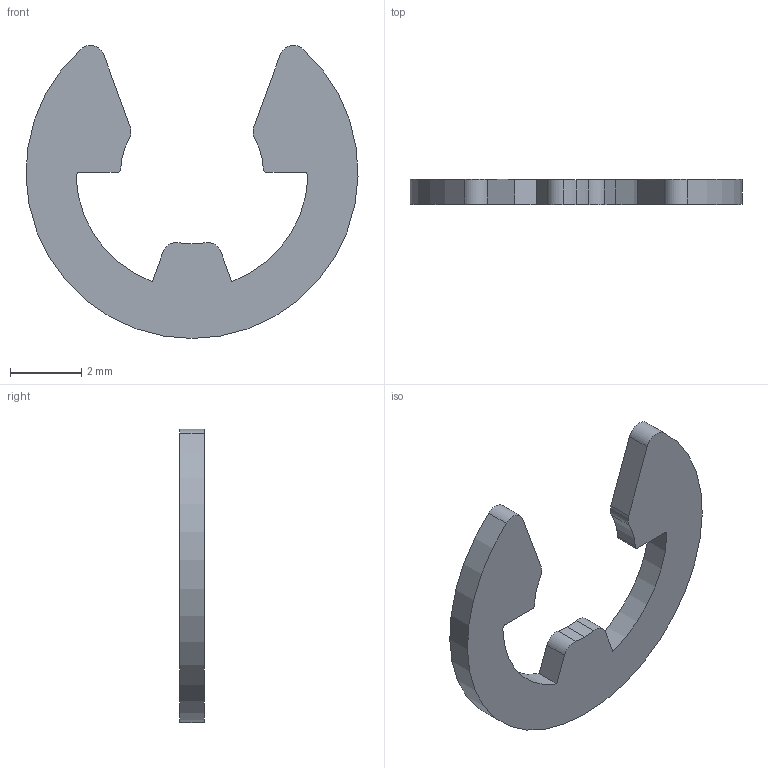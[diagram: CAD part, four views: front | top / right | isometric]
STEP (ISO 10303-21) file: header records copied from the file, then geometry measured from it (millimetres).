
FILE_DESCRIPTION (( 'STEP AP203' ), '1' );
FILE_NAME ('P0382.040-PH.step', '2019-07-25T21:00:01', ( '' ), ( '' ), 'SwSTEP 2.0', 'SolidWorks 2017', '' );
FILE_SCHEMA (( 'CONFIG_CONTROL_DESIGN' ));
Length unit declared in the file: millimetre
Products named in the file (1): P0382.040-PH
Bounding box: 9.3 x 0.7 x 8.21 mm (x, y, z)
Volume: 24.1 mm3; surface area: 100.3 mm2
Topology: 1 solids, 1 shells, 26 faces, 72 edges, 48 vertices
Faces by surface type: cylinder 18, plane 8
Entity records: 929 total; most frequent: DIRECTION 162, CARTESIAN_POINT 147, ORIENTED_EDGE 144, EDGE_CURVE 72, AXIS2_PLACEMENT_3D 63, VERTEX_POINT 48, CIRCLE 36, LINE 36
